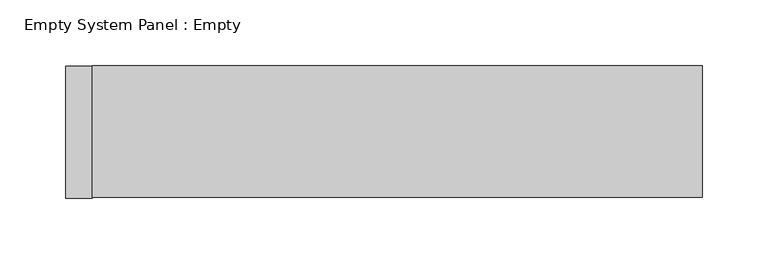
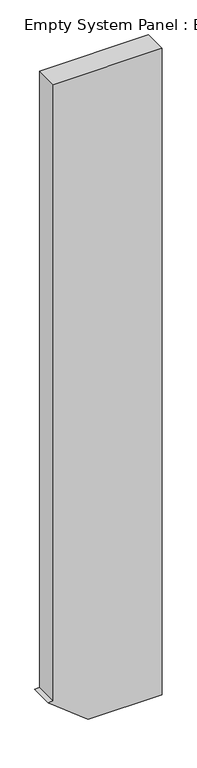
"""IFC4 building model written with IfcOpenShell, lengths in millimetres: plate geometry, Empty System Panel : Empty."""

import ifcopenshell
import ifcopenshell.guid

model = None  # the IFC model being written
_history = None  # IfcOwnerHistory: only IFC2X3 demands one
_inside = {}  # id of a spatial element -> (the spatial element, [elements in it])
_under = {}  # id of a project, library or spatial element -> (it, [spatial elements below it])
_declared = {}  # id of a project -> (the project, [libraries it declares])
_typed = {}  # id of a type object -> (the type object, [elements of that type])
_made_of = {}  # id of a material, layer set ... -> (it, [elements and type objects made of it])


def new_model(schema):
    """Start an empty IFC model of exactly this schema.

    Asked for "IFC4X3", IfcOpenShell would pick the latest addendum, in which some entities
    have other attributes; the version numbers below select the first issue.
    IFC2X3 requires an IfcOwnerHistory on every rooted entity: one is made here for all.
    """
    global model, _history
    if schema == "IFC4X3":
        model = ifcopenshell.file(schema_version=(4, 3, 0, 0))
    else:
        model = ifcopenshell.file(schema=schema)
    _inside.clear()
    _under.clear()
    _declared.clear()
    _typed.clear()
    _made_of.clear()
    _history = None
    if model.schema == "IFC2X3":
        org = make("IfcOrganization", Name="unknown")
        user = make(
            "IfcPersonAndOrganization",
            ThePerson=make("IfcPerson", FamilyName="unknown"),
            TheOrganization=org,
        )
        app = make(
            "IfcApplication",
            ApplicationDeveloper=org,
            Version="unknown",
            ApplicationFullName="unknown",
            ApplicationIdentifier="unknown",
        )
        _history = make(
            "IfcOwnerHistory",
            OwningUser=user,
            OwningApplication=app,
            ChangeAction="ADDED",
            CreationDate=0,
        )
    return model


def make(cls, **values):
    """One entity of the class cls with the attributes given. An attribute that is None is left unset."""
    return model.create_entity(
        cls, **{name: value for name, value in values.items() if value is not None}
    )


def rooted(cls, **values):
    """An entity with a GlobalId (a new one), such as an element, a storey or a relation."""
    return make(cls, GlobalId=ifcopenshell.guid.new(), OwnerHistory=_history, **values)


def si_unit(unit_type, name, prefix=None):
    """IfcSIUnit, for example si_unit("LENGTHUNIT", "METRE", prefix="MILLI")."""
    return make("IfcSIUnit", UnitType=unit_type, Prefix=prefix, Name=name)


def assignment(units):
    """IfcUnitAssignment: the units of a project."""
    return None if units is None else make("IfcUnitAssignment", Units=units)


def point(xyz):
    """IfcCartesianPoint."""
    return None if xyz is None else make("IfcCartesianPoint", Coordinates=xyz)


def direction(xyz):
    """IfcDirection."""
    return None if xyz is None else make("IfcDirection", DirectionRatios=xyz)


def frame(location, z_axis=None, x_axis=None):
    """IfcAxis2Placement3D, a coordinate frame: its origin and axes. An axis left out is left unset."""
    return make(
        "IfcAxis2Placement3D",
        Location=point(location),
        Axis=direction(z_axis),
        RefDirection=direction(x_axis),
    )


def origin():
    """The frame at (0, 0, 0) with its axes left unset."""
    return frame((0.0, 0.0, 0.0))


def place(relative_to, where):
    """IfcLocalPlacement: puts the frame where relative to a parent placement (None: the world)."""
    return make(
        "IfcLocalPlacement", PlacementRelTo=relative_to, RelativePlacement=where
    )


def context(
    kind, dimensions, precision=None, world=None, true_north=None, identifier=None
):
    """IfcGeometricRepresentationContext, for example the 3D "Model" context."""
    return make(
        "IfcGeometricRepresentationContext",
        ContextIdentifier=identifier,
        ContextType=kind,
        CoordinateSpaceDimension=dimensions,
        Precision=precision,
        WorldCoordinateSystem=world,
        TrueNorth=true_north,
    )


def project(units=None, contexts=None):
    """IfcProject with its units and contexts."""
    return rooted(
        "IfcProject",
        Name="project",
        RepresentationContexts=contexts,
        UnitsInContext=assignment(units),
    )


def spatial(cls, under=None, at=None, **own):
    """A site, building, storey or space (cls), placed at a placement, below another one or the project."""
    s = rooted(cls, ObjectPlacement=at, **own)
    if under is not None:
        _under.setdefault(under.id(), (under, []))[1].append(s)
    return s


def polyline(points):
    """IfcPolyline through the points."""
    return make("IfcPolyline", Points=[point(p) for p in points])


def outline(outer, holes=None, kind="AREA"):
    """IfcArbitraryClosedProfileDef: a profile drawn as a closed curve; with holes, ...WithVoids."""
    if holes is None:
        return make("IfcArbitraryClosedProfileDef", ProfileType=kind, OuterCurve=outer)
    return make(
        "IfcArbitraryProfileDefWithVoids",
        ProfileType=kind,
        OuterCurve=outer,
        InnerCurves=holes,
    )


def extrude(swept, where, along, depth):
    """IfcExtrudedAreaSolid: the profile swept, set in the frame where, extruded along a direction by depth."""
    return make(
        "IfcExtrudedAreaSolid",
        SweptArea=swept,
        Position=where,
        ExtrudedDirection=direction(along),
        Depth=depth,
    )


def shape(context_of_items, identifier, shape_type, items):
    """IfcShapeRepresentation: the items that make up one representation, for example the "Body"."""
    return make(
        "IfcShapeRepresentation",
        ContextOfItems=context_of_items,
        RepresentationIdentifier=identifier,
        RepresentationType=shape_type,
        Items=items,
    )


def source(mapping_origin, context_of_items, identifier, shape_type, items):
    """IfcRepresentationMap: a shape defined once, which mapped items show again and again."""
    return make(
        "IfcRepresentationMap",
        MappingOrigin=mapping_origin,
        MappedRepresentation=shape(context_of_items, identifier, shape_type, items),
    )


def transform(
    local_origin,
    x_axis=None,
    y_axis=None,
    z_axis=None,
    scale=None,
    scale2=None,
    scale3=None,
    uniform=True,
):
    """IfcCartesianTransformationOperator3D, or its non-uniform kind. x_axis, y_axis, z_axis: its Axis1, 2, 3."""
    if uniform:
        return make(
            "IfcCartesianTransformationOperator3D",
            Axis1=direction(x_axis),
            Axis2=direction(y_axis),
            LocalOrigin=point(local_origin),
            Scale=scale,
            Axis3=direction(z_axis),
        )
    return make(
        "IfcCartesianTransformationOperator3DnonUniform",
        Axis1=direction(x_axis),
        Axis2=direction(y_axis),
        LocalOrigin=point(local_origin),
        Scale=scale,
        Axis3=direction(z_axis),
        Scale2=scale2,
        Scale3=scale3,
    )


def mapped(mapping_source, mapping_target):
    """IfcMappedItem: shows the shape of a source again, moved by a transform."""
    return make(
        "IfcMappedItem", MappingSource=mapping_source, MappingTarget=mapping_target
    )


def made_of(thing, what):
    """Note that an element or type object is made of a material, layer set ...; save() writes the relation."""
    if what is not None:
        _made_of.setdefault(what.id(), (what, []))[1].append(thing)
    return thing


def element(
    cls,
    number,
    at=None,
    inside=None,
    cuts=None,
    type_object=None,
    material=None,
    context=None,
    identifier="Body",
    shape_type=None,
    held_by="IfcProductDefinitionShape",
    body=None,
    shapes=None,
    **own,
):
    """One element of the class cls, such as IfcWall. Its Tag is "e" and its number.

    at: its placement. inside: the storey or other place that contains it. cuts: it is an
    opening in that element (IfcRelVoidsElement). A single representation is given by context,
    identifier, shape_type and body (its items); several are given by shapes. held_by: the class
    of the entity that holds the representations. save() writes the other relations.
    """
    e = rooted(cls, Tag="e%d" % number, ObjectPlacement=at, **own)
    if body is not None:
        shapes = [shape(context, identifier, shape_type, body)]
    if shapes is not None:
        e.Representation = make(held_by, Representations=shapes)
    if inside is not None:
        _inside.setdefault(inside.id(), (inside, []))[1].append(e)
    if cuts is not None:
        rooted(
            "IfcRelVoidsElement", RelatingBuildingElement=cuts, RelatedOpeningElement=e
        )
    if type_object is not None:
        _typed.setdefault(type_object.id(), (type_object, []))[1].append(e)
    return made_of(e, material)


def aggregate(whole, parts):
    """IfcRelAggregates: a whole, such as a stair, and the parts it consists of."""
    return rooted("IfcRelAggregates", RelatingObject=whole, RelatedObjects=parts)


def save(model, path):
    """Write the relations noted so far, then the file.

    IfcRelAggregates (storeys below a building ...), IfcRelContainedInSpatialStructure (elements
    in a storey), IfcRelDefinesByType, IfcRelAssociatesMaterial and IfcRelDeclares: one each for
    every whole, place, type object, material and project.
    """
    for whole, parts in _under.values():
        aggregate(whole, parts)
    for where, things in _inside.values():
        rooted(
            "IfcRelContainedInSpatialStructure",
            RelatedElements=things,
            RelatingStructure=where,
        )
    for kind, things in _typed.values():
        rooted("IfcRelDefinesByType", RelatedObjects=things, RelatingType=kind)
    for what, things in _made_of.values():
        rooted("IfcRelAssociatesMaterial", RelatedObjects=things, RelatingMaterial=what)
    for by, libraries in _declared.values():
        rooted("IfcRelDeclares", RelatingContext=by, RelatedDefinitions=libraries)
    model.write(path)


def empty_system_panel_empty_d516a625(model_context):
    return source(origin(), model_context, "Body", "SweptSolid", [
        extrude(outline(polyline([(0.0, -73.3964491), (0.0, 241.7391304), (2906.3195938, 241.7391304), (2906.3195938, -221.7391304), (134.9253481, -221.7391304), (134.9253481, -241.7391304), (0.0, -73.3964491)])), frame((0.0, -50.0, 0.0), z_axis=(0.0, 1.0, 0.0), x_axis=(0.0, 0.0, 1.0)), (0.0, 0.0, 1.0), 100.0),
    ])


if __name__ == "__main__":
    model = new_model("IFC4")
    model_context = context("Model", 3, world=origin())
    ifc_project = project(units=[si_unit("LENGTHUNIT", "METRE", prefix="MILLI")], contexts=[model_context])
    site = spatial("IfcSite", under=ifc_project)
    building = spatial("IfcBuilding", under=site)
    placement = place(None, origin())
    empty_system_panel_empty_shape = empty_system_panel_empty_d516a625(model_context)
    element("IfcPlate", 1, ObjectType="Empty System Panel : Empty", at=placement, inside=building, context=model_context, shape_type="MappedRepresentation", body=[
        mapped(empty_system_panel_empty_shape, transform((0.0, 0.0, 0.0), x_axis=(1.0, 0.0, 0.0), y_axis=(0.0, 1.0, 0.0), z_axis=(0.0, 0.0, 1.0))),
    ])
    save(model, "model.ifc")
